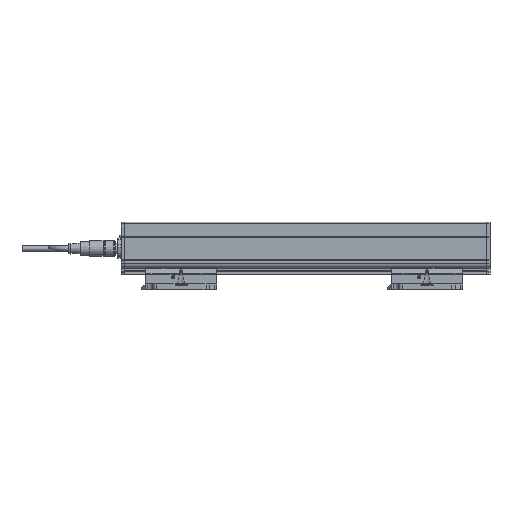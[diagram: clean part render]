
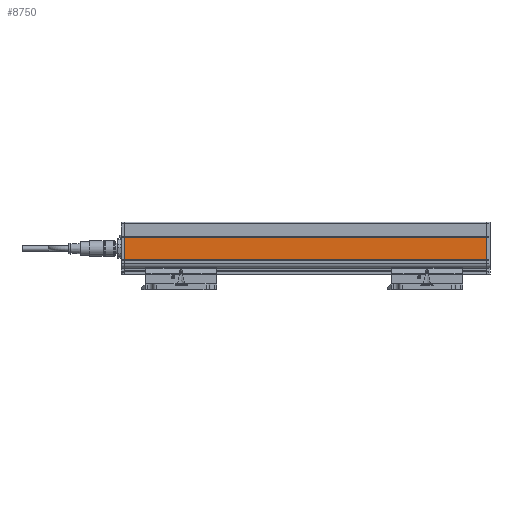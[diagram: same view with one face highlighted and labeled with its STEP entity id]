
A CAD part, front view. The second image highlights one B-rep face of the part: STEP entity #8750.
In plain terms, the highlighted planar face has unit normal (0, -1, 0).
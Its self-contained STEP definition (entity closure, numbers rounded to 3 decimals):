
#8750=ADVANCED_FACE('', (#8760), #8770, .T.);
#79610=AXIS2_PLACEMENT_3D('Ax2Pl3d', #79620, #79630, #79640);
#316190=CARTESIAN_POINT('', (-767.169,-484.87,
344.664));
#316200=CARTESIAN_POINT('', (-767.169,-484.87,
365.637));
#316210=CARTESIAN_POINT('', (-767.169,-484.87,
365.637));
#316470=CARTESIAN_POINT('', (-428.169,-484.87,
365.637));
#316480=CARTESIAN_POINT('', (-428.169,-484.87,
344.664));
#316490=CARTESIAN_POINT('', (-428.169,-484.87,
344.664));
#317240=CARTESIAN_POINT('', (-767.169,-484.87,
344.664));
#79620=CARTESIAN_POINT('HicPkt', (-767.169,-484.87,
344.664));
#317250=CARTESIAN_POINT('', (-767.169,-484.87,
365.637));
#514350=DIRECTION('', (0.,0.,1.));
#514510=DIRECTION('', (0.,0.,-1.));
#514980=DIRECTION('', (-1.,0.,0.));
#79630=DIRECTION('Axis', (0.,-1.,
0.));
#79640=DIRECTION('RefDirection', (0.,
0.,-1.));
#514990=DIRECTION('', (-1.,0.,0.));
#549840=EDGE_CURVE('', #549820, #549850, #549860, .T.);
#550300=EDGE_CURVE('', #550280, #550310, #550320, .T.);
#551640=EDGE_CURVE('', #550310, #549820, #551650, .T.);
#551660=EDGE_CURVE('', #550280, #549850, #551670, .T.);
#657360=EDGE_LOOP('Edge_loop', (#657370,#657380,#657390,#657400));
#8760=FACE_OUTER_BOUND('Face_outer_bound', #657360, .T.);
#549860=LINE('Line', #316200, #762140);
#550320=LINE('Line', #316480, #762300);
#551650=LINE('Line', #317240, #762770);
#551670=LINE('Line', #317250, #762780);
#657370=ORIENTED_EDGE('', *, *, #549840, .F.);
#657380=ORIENTED_EDGE('', *, *, #551640, .F.);
#657390=ORIENTED_EDGE('', *, *, #550300, .F.);
#657400=ORIENTED_EDGE('', *, *, #551660, .T.);
#8770=PLANE('Plane', #79610);
#762140=VECTOR('', #514350, 20.973);
#762300=VECTOR('', #514510, 20.973);
#762770=VECTOR('', #514980, 339.);
#762780=VECTOR('', #514990, 339.);
#549820=VERTEX_POINT('', #316190);
#549850=VERTEX_POINT('', #316210);
#550280=VERTEX_POINT('', #316470);
#550310=VERTEX_POINT('', #316490);
